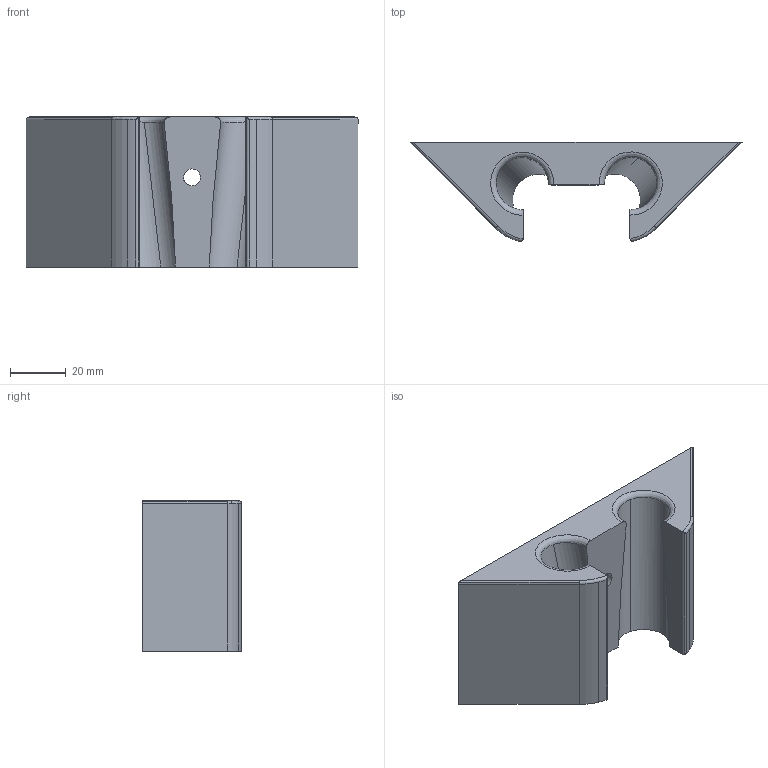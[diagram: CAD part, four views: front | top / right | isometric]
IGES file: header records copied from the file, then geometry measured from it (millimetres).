
Start section: 3D InterOp IGES (Version 24 0 1), Spatial Corp. Copyright (c) 1999-2007.
Global section: file name: etau version a (x2).igs; native system: Spatial Corp.; preprocessor: 3D InterOp ACIS/IGES; author: Noname; organization: Noname; date: 20160210.170756; units: millimetre
Bounding box: 119.45 x 35.58 x 53.98 mm (x, y, z)
Volume: 99349.6 mm3; surface area: 23651.6 mm2
Topology: 1 solids, 1 shells, 49 faces, 122 edges, 81 vertices
Faces by surface type: cylinder 31, plane 14, torus 2, bspline 2
